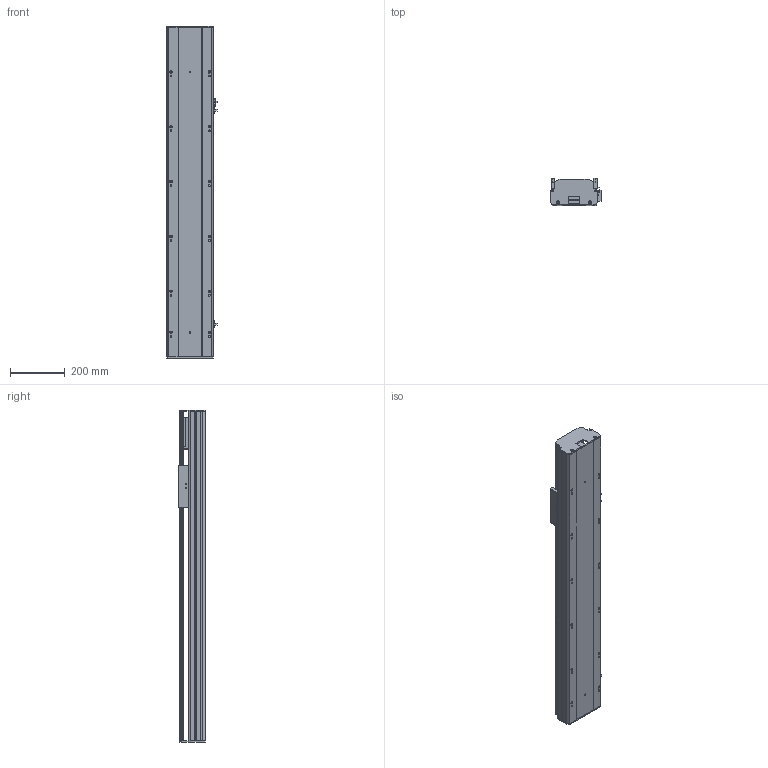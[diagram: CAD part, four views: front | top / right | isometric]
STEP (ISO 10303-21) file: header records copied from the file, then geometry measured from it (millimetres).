
FILE_DESCRIPTION (( 'STEP AP203' ), '1' );
FILE_NAME ('Y170-D10-S800-M-P400W.STEP', '2020-01-22T12:49:14', ( '微软用户' ), ( '微软中国' ), 'SwSTEP 2.0', 'SolidWorks 2017', '' );
FILE_SCHEMA (( 'CONFIG_CONTROL_DESIGN' ));
Length unit declared in the file: millimetre
Products named in the file (10): Y170--雄赽釱-梓--; 170--掛极-M; Y170耜裔--準---M; san松下电机400不带刹车----; Y170-陔遴奻裔-M; YD-Y100-135-新外置传感挡片(通用）; Y170-D10-S800-M-P400W; Y100-135俋离換覜ん; 135-盓傅釱-FK15; Y170耜裔--準---
Assembly tree (11 placements, depth 2):
  Y170-D10-S800-M-P400W
    YD-Y100-135-新外置传感挡片(通用）
    Y100-135俋离換覜ん  x3
    135-盓傅釱-FK15
    Y170耜裔--準---
    Y170--雄赽釱-梓--
    170--掛极-M
    Y170耜裔--準---M
    san松下电机400不带刹车----
    Y170-陔遴奻裔-M
Bounding box: 183.5 x 97 x 1211 mm (x, y, z)
Volume: 5297363.6 mm3; surface area: 1865434.5 mm2
Topology: 11 solids, 11 shells, 785 faces, 2228 edges, 1476 vertices
Faces by surface type: cylinder 399, plane 384, torus 2
Entity records: 25420 total; most frequent: CARTESIAN_POINT 4529, DIRECTION 4222, ORIENTED_EDGE 4120, EDGE_CURVE 2060, AXIS2_PLACEMENT_3D 1497, VERTEX_POINT 1364, LINE 1228, VECTOR 1228
